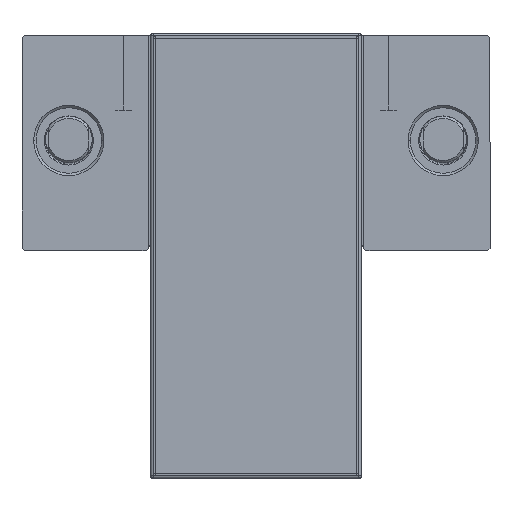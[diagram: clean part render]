
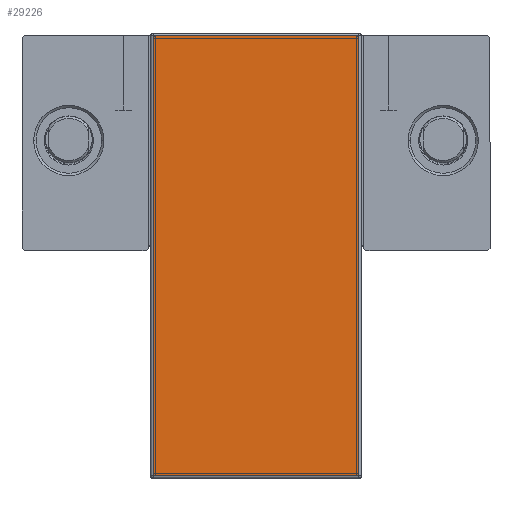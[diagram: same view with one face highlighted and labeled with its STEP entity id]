
A CAD part, top view. The second image highlights one B-rep face of the part: STEP entity #29226.
In plain terms, the highlighted planar face has unit normal (0, 0, 1).
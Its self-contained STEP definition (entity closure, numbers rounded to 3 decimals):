
#481 = LINE ( 'NONE', #1340, #16284 ) ;
#1340 = CARTESIAN_POINT ( 'NONE',  ( -44., 44., 421. ) ) ;
#2052 = ORIENTED_EDGE ( 'NONE', *, *, #37075, .T. ) ;
#2156 = CARTESIAN_POINT ( 'NONE',  ( 44., -144., 421. ) ) ;
#2251 = PLANE ( 'NONE',  #16331 ) ;
#3154 = VERTEX_POINT ( 'NONE', #11481 ) ;
#5418 = LINE ( 'NONE', #33719, #12358 ) ;
#7850 = CARTESIAN_POINT ( 'NONE',  ( -44., -144., 421. ) ) ;
#8192 = DIRECTION ( 'NONE',  ( 1., 0., 0. ) ) ;
#8889 = DIRECTION ( 'NONE',  ( 1., 0., 0. ) ) ;
#10561 = ORIENTED_EDGE ( 'NONE', *, *, #37249, .T. ) ;
#10844 = FACE_OUTER_BOUND ( 'NONE', #23366, .T. ) ;
#11481 = CARTESIAN_POINT ( 'NONE',  ( -44., 44., 421. ) ) ;
#11936 = VERTEX_POINT ( 'NONE', #31274 ) ;
#12358 = VECTOR ( 'NONE', #18830, 1000. ) ;
#13716 = CARTESIAN_POINT ( 'NONE',  ( -44., -144., 421. ) ) ;
#14498 = VERTEX_POINT ( 'NONE', #2156 ) ;
#14677 = EDGE_CURVE ( 'NONE', #36084, #14498, #32925, .T. ) ;
#15510 = ORIENTED_EDGE ( 'NONE', *, *, #20510, .T. ) ;
#16284 = VECTOR ( 'NONE', #30923, 1000. ) ;
#16331 = AXIS2_PLACEMENT_3D ( 'NONE', #23037, #26000, #8192 ) ;
#18830 = DIRECTION ( 'NONE',  ( 0., 1., 0. ) ) ;
#19596 = ORIENTED_EDGE ( 'NONE', *, *, #14677, .T. ) ;
#20510 = EDGE_CURVE ( 'NONE', #11936, #3154, #481, .T. ) ;
#23037 = CARTESIAN_POINT ( 'NONE',  ( -44., -144., 421. ) ) ;
#23366 = EDGE_LOOP ( 'NONE', ( #10561, #19596, #2052, #15510 ) ) ;
#24141 = VECTOR ( 'NONE', #8889, 1000. ) ;
#26000 = DIRECTION ( 'NONE',  ( 0., 0., 1. ) ) ;
#29226 = ADVANCED_FACE ( 'NONE', ( #10844 ), #2251, .T. ) ;
#29626 = CARTESIAN_POINT ( 'NONE',  ( 44., -144., 421. ) ) ;
#30923 = DIRECTION ( 'NONE',  ( -1., 0., 0. ) ) ;
#31274 = CARTESIAN_POINT ( 'NONE',  ( 44., 44., 421. ) ) ;
#31360 = LINE ( 'NONE', #13716, #37936 ) ;
#32925 = LINE ( 'NONE', #29626, #24141 ) ;
#33719 = CARTESIAN_POINT ( 'NONE',  ( 44., 44., 421. ) ) ;
#36084 = VERTEX_POINT ( 'NONE', #7850 ) ;
#37075 = EDGE_CURVE ( 'NONE', #14498, #11936, #5418, .T. ) ;
#37249 = EDGE_CURVE ( 'NONE', #3154, #36084, #31360, .T. ) ;
#37606 = DIRECTION ( 'NONE',  ( 0., -1., 0. ) ) ;
#37936 = VECTOR ( 'NONE', #37606, 1000. ) ;
